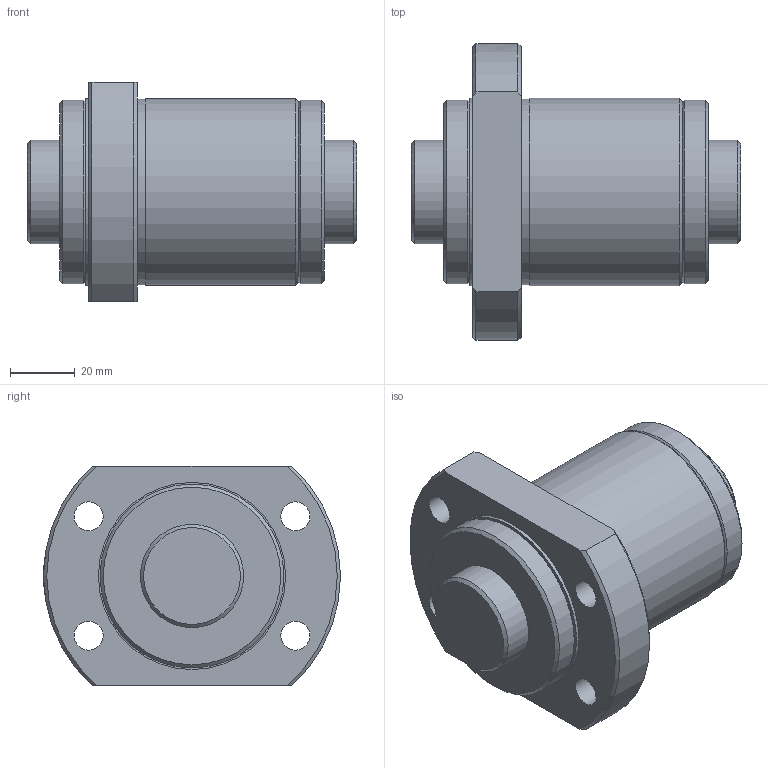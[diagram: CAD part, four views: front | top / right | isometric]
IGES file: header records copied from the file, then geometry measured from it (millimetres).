
Start section: Data from Parasolid IGES Translator 26.0.171, Copyright(c) 2006 Siemens PLM Software. All Rights Reserved.
Global section: file name: SBK3220-5.6RRG0+102LC0(0000).igs; native system: By Siemens PLM Incorporated; preprocessor: XPlus GENERIC/IGES 26.0.171; author: Noname; organization: Noname; date: 20240528.111955; units: millimetre
Bounding box: 102 x 92 x 68 mm (x, y, z)
Surface area: 47258.4 mm2 (no closed solid volume)
Topology: 0 solids, 0 shells, 37 faces, 163 edges, 136 vertices
Faces by surface type: revolution 27, extrusion 10
